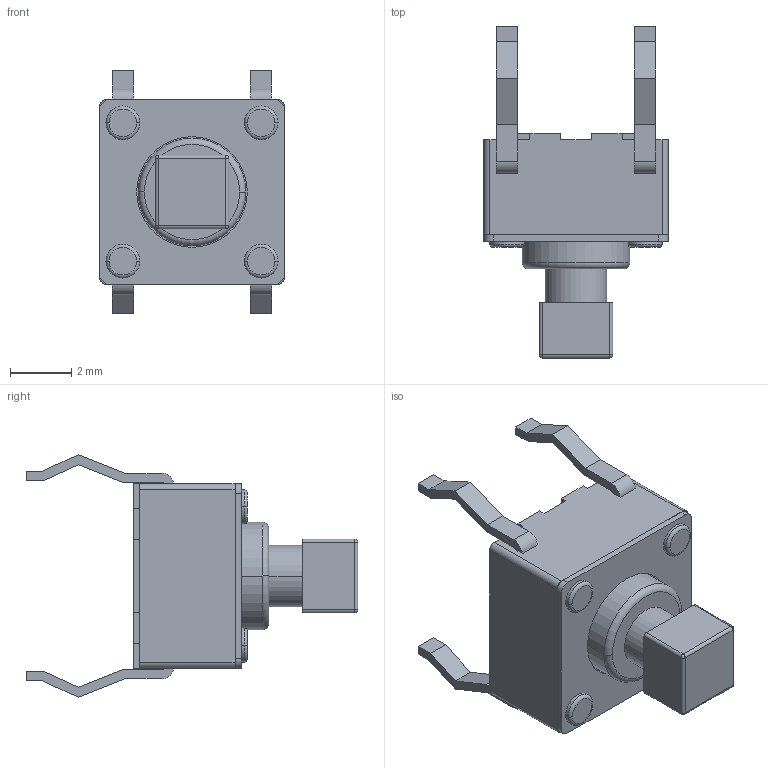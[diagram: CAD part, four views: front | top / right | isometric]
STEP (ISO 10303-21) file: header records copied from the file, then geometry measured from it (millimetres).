
FILE_DESCRIPTION((''),'2;1');
FILE_NAME('JQB6060G-C0731-101_ASM','2026-05-13T11:28:13',('Admin'),(''),'CREO PARAMETRIC BY PTC INC, 2019224','CREO PARAMETRIC BY PTC INC, 2019224','');
FILE_SCHEMA(('AUTOMOTIVE_DESIGN { 1 0 10303 214 1 1 1 1 }'));
Length unit declared in the file: millimetre
Products named in the file (3): JQB6060G-C0731-101_01; JQB6060G-C0731-101_02; JQB6060G-C0731-101_ASM
Assembly tree (2 placements, depth 2):
  JQB6060G-C0731-101_ASM
    JQB6060G-C0731-101_01
    JQB6060G-C0731-101_02
Bounding box: 6 x 10.8 x 7.9 mm (x, y, z)
Volume: 149 mm3; surface area: 299.7 mm2
Topology: 2 solids, 2 shells, 163 faces, 421 edges, 288 vertices
Faces by surface type: plane 95, cylinder 54, torus 10, sphere 4
Entity records: 6851 total; most frequent: DIRECTION 897, CARTESIAN_POINT 868, ORIENTED_EDGE 820, PRESENTATION_STYLE_ASSIGNMENT 419, EDGE_CURVE 410, STYLED_ITEM 371, CURVE_STYLE 370, AXIS2_PLACEMENT_3D 302
